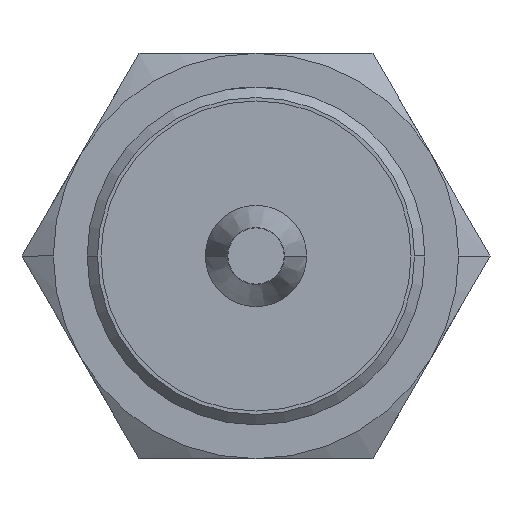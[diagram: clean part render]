
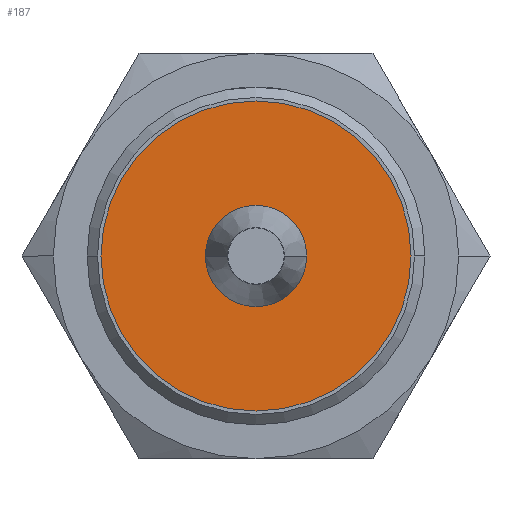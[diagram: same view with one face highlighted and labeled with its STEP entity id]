
A CAD part, left-side view. The second image highlights one B-rep face of the part: STEP entity #187.
In plain terms, the highlighted planar face has unit normal (-1, 0, 0).
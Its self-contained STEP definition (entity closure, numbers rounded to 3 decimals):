
#187 = ADVANCED_FACE( '', ( #289, #290 ), #291, .T. );
#289 = FACE_BOUND( '', #464, .T. );
#290 = FACE_OUTER_BOUND( '', #465, .T. );
#291 = PLANE( '', #466 );
#464 = EDGE_LOOP( '', ( #717, #718 ) );
#465 = EDGE_LOOP( '', ( #719, #720 ) );
#466 = AXIS2_PLACEMENT_3D( '', #721, #722, #723 );
#717 = ORIENTED_EDGE( '', *, *, #1209, .F. );
#718 = ORIENTED_EDGE( '', *, *, #1239, .F. );
#719 = ORIENTED_EDGE( '', *, *, #1215, .T. );
#720 = ORIENTED_EDGE( '', *, *, #1238, .T. );
#721 = CARTESIAN_POINT( '', ( 0., 8.638, 0. ) );
#722 = DIRECTION( '', ( -1., 0., 0. ) );
#723 = DIRECTION( '', ( 0., 1., 0. ) );
#1209 = EDGE_CURVE( '', #1389, #1392, #1393, .T. );
#1215 = EDGE_CURVE( '', #1398, #1402, #1404, .T. );
#1238 = EDGE_CURVE( '', #1402, #1398, #1440, .T. );
#1239 = EDGE_CURVE( '', #1392, #1389, #1441, .T. );
#1389 = VERTEX_POINT( '', #1667 );
#1392 = VERTEX_POINT( '', #1671 );
#1393 = CIRCLE( '', #1672, 3.5 );
#1398 = VERTEX_POINT( '', #1678 );
#1402 = VERTEX_POINT( '', #1683 );
#1404 = CIRCLE( '', #1686, 13.775 );
#1440 = CIRCLE( '', #1797, 13.775 );
#1441 = CIRCLE( '', #1798, 3.5 );
#1667 = CARTESIAN_POINT( '', ( 0., 3.5, 0. ) );
#1671 = CARTESIAN_POINT( '', ( 0., -3.5, 0. ) );
#1672 = AXIS2_PLACEMENT_3D( '', #2485, #2486, #2487 );
#1678 = CARTESIAN_POINT( '', ( 0., 13.775, 0. ) );
#1683 = CARTESIAN_POINT( '', ( 0., -13.775, 0. ) );
#1686 = AXIS2_PLACEMENT_3D( '', #2497, #2498, #2499 );
#1797 = AXIS2_PLACEMENT_3D( '', #2541, #2542, #2543 );
#1798 = AXIS2_PLACEMENT_3D( '', #2544, #2545, #2546 );
#2485 = CARTESIAN_POINT( '', ( 0., 0., 0. ) );
#2486 = DIRECTION( '', ( -1., 0., 0. ) );
#2487 = DIRECTION( '', ( 0., 1., 0. ) );
#2497 = CARTESIAN_POINT( '', ( 0., 0., 0. ) );
#2498 = DIRECTION( '', ( -1., 0., 0. ) );
#2499 = DIRECTION( '', ( 0., 1., 0. ) );
#2541 = CARTESIAN_POINT( '', ( 0., 0., 0. ) );
#2542 = DIRECTION( '', ( -1., 0., 0. ) );
#2543 = DIRECTION( '', ( 0., 1., 0. ) );
#2544 = CARTESIAN_POINT( '', ( 0., 0., 0. ) );
#2545 = DIRECTION( '', ( -1., 0., 0. ) );
#2546 = DIRECTION( '', ( 0., 1., 0. ) );
